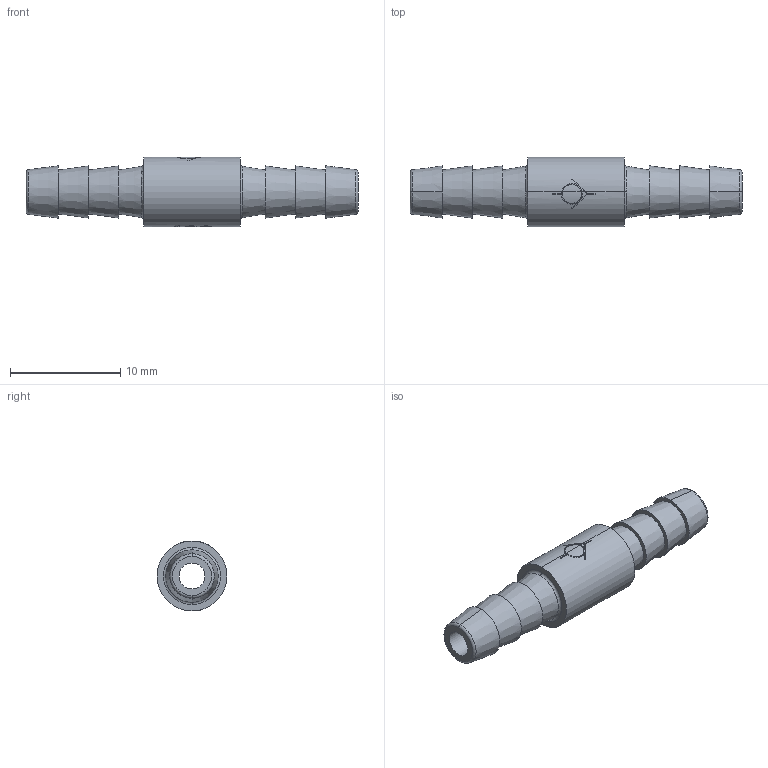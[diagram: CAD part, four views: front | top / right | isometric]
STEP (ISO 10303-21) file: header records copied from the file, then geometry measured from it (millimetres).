
FILE_DESCRIPTION(/* description */ ('SolidWorks IGES file using NURBS representation for surfaces '),/* implementation_level */ '2;1');
FILE_NAME(/* name */ 'K:\Normteile INVENTOR\Air-Logic\Check Valves\F-2804-403-B85.IGS.ipt.stp',/* time_stamp */ '2020-05-27T10:36:13+02:00',/* author */ ('amarsh'),/* organization */ (''),/* preprocessor_version */ 'ST-DEVELOPER v18',/* originating_system */ 'Autodesk Inventor 2020',/* authorisation */ '');
FILE_SCHEMA (('AUTOMOTIVE_DESIGN { 1 0 10303 214 3 1 1 }'));
Length unit declared in the file: millimetre
Products named in the file (1): F-2804-403-B85.IGS
Bounding box: 30.15 x 6.35 x 6.35 mm (x, y, z)
Surface area: 767.6 mm2 (no closed solid volume)
Topology: 0 solids, 2 shells, 101 faces, 279 edges, 190 vertices
Faces by surface type: bspline 43, plane 26, cylinder 14, cone 10, torus 8
Full cylindrical faces by diameter (mm): 2.36 x1
Entity records: 6531 total; most frequent: CARTESIAN_POINT 4117, ORIENTED_EDGE 550, DIRECTION 387, EDGE_CURVE 279, VERTEX_POINT 190, AXIS2_PLACEMENT_3D 142, EDGE_LOOP 113, LINE 103
